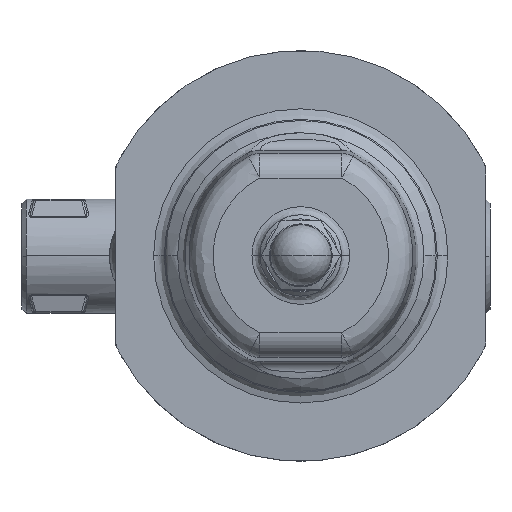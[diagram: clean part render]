
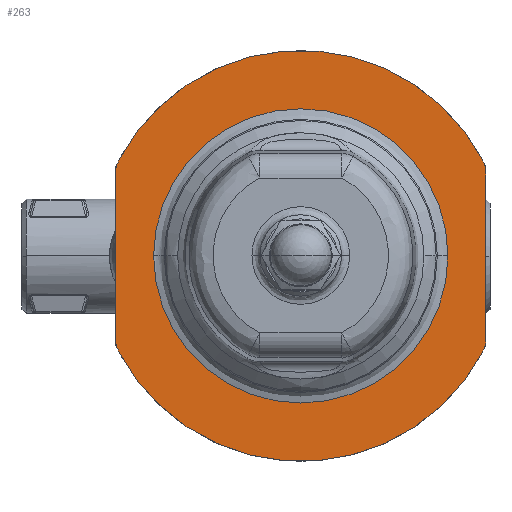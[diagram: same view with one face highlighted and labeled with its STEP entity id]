
A CAD part, top view. The second image highlights one B-rep face of the part: STEP entity #263.
In plain terms, the highlighted planar face has unit normal (0, 0, 1).
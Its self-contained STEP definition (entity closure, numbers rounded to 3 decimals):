
#263=ADVANCED_FACE('',(#1197,#1198),#1196,.F.);
#1196=PLANE('',#7261);
#1197=FACE_OUTER_BOUND('',#7262,.T.);
#1198=FACE_BOUND('',#7263,.T.);
#7258=CARTESIAN_POINT('',(54.6,-60.5,7.));
#7259=DIRECTION('',(0.,0.,-1.));
#7260=DIRECTION('',(-1.,0.,0.));
#7261=AXIS2_PLACEMENT_3D('',#7258,#7259,#7260);
#7262=EDGE_LOOP('',(#15993,#15994,#15995,#15996,#15997,#15998,#15999,#16000));
#7263=EDGE_LOOP('',(#16001,#16002));
#15993=ORIENTED_EDGE('',*,*,#18547,.F.);
#15994=ORIENTED_EDGE('',*,*,#18494,.T.);
#15995=ORIENTED_EDGE('',*,*,#18539,.F.);
#15996=ORIENTED_EDGE('',*,*,#18482,.T.);
#15997=ORIENTED_EDGE('',*,*,#18546,.F.);
#15998=ORIENTED_EDGE('',*,*,#18486,.T.);
#15999=ORIENTED_EDGE('',*,*,#18548,.F.);
#16000=ORIENTED_EDGE('',*,*,#18490,.T.);
#16001=ORIENTED_EDGE('',*,*,#18550,.T.);
#16002=ORIENTED_EDGE('',*,*,#18551,.T.);
#18482=EDGE_CURVE('',#19972,#19965,#19973,.T.);
#18486=EDGE_CURVE('',#20000,#19993,#20001,.T.);
#18490=EDGE_CURVE('',#20028,#20021,#20029,.T.);
#18494=EDGE_CURVE('',#20056,#20049,#20057,.T.);
#18539=EDGE_CURVE('',#19972,#20049,#20351,.T.);
#18546=EDGE_CURVE('',#20000,#19965,#20395,.T.);
#18547=EDGE_CURVE('',#20056,#20021,#20401,.T.);
#18548=EDGE_CURVE('',#20028,#19993,#20407,.T.);
#18550=EDGE_CURVE('',#20419,#20420,#20421,.T.);
#18551=EDGE_CURVE('',#20420,#20419,#20427,.T.);
#19965=VERTEX_POINT('',#28646);
#19972=VERTEX_POINT('',#28650);
#19973=CIRCLE('',#28654,6.5);
#19993=VERTEX_POINT('',#28664);
#20000=VERTEX_POINT('',#28668);
#20001=CIRCLE('',#28672,6.5);
#20021=VERTEX_POINT('',#28682);
#20028=VERTEX_POINT('',#28686);
#20029=CIRCLE('',#28690,6.5);
#20049=VERTEX_POINT('',#28700);
#20056=VERTEX_POINT('',#28704);
#20057=CIRCLE('',#28708,6.5);
#20351=CIRCLE('',#28994,50.5);
#20395=LINE('',#29019,#29020);
#20401=LINE('',#29022,#29023);
#20407=CIRCLE('',#29028,50.5);
#20419=VERTEX_POINT('',#29032);
#20420=VERTEX_POINT('',#29033);
#20421=CIRCLE('',#29037,36.155);
#20427=CIRCLE('',#29041,36.155);
#28646=CARTESIAN_POINT('',(-45.5,20.372,7.));
#28650=CARTESIAN_POINT('',(-44.761,23.381,7.));
#28651=CARTESIAN_POINT('',(-39.,20.372,7.));
#28652=DIRECTION('',(0.,0.,1.));
#28653=DIRECTION('',(1.,0.,0.));
#28654=AXIS2_PLACEMENT_3D('',#28651,#28652,#28653);
#28664=CARTESIAN_POINT('',(-44.761,-23.381,7.));
#28668=CARTESIAN_POINT('',(-45.5,-20.372,7.));
#28669=CARTESIAN_POINT('',(-39.,-20.372,7.));
#28670=DIRECTION('',(0.,0.,1.));
#28671=DIRECTION('',(1.,0.,0.));
#28672=AXIS2_PLACEMENT_3D('',#28669,#28670,#28671);
#28682=CARTESIAN_POINT('',(45.5,-20.372,7.));
#28686=CARTESIAN_POINT('',(44.761,-23.381,7.));
#28687=CARTESIAN_POINT('',(39.,-20.372,7.));
#28688=DIRECTION('',(0.,0.,1.));
#28689=DIRECTION('',(1.,0.,0.));
#28690=AXIS2_PLACEMENT_3D('',#28687,#28688,#28689);
#28700=CARTESIAN_POINT('',(44.761,23.381,7.));
#28704=CARTESIAN_POINT('',(45.5,20.372,7.));
#28705=CARTESIAN_POINT('',(39.,20.372,7.));
#28706=DIRECTION('',(0.,0.,1.));
#28707=DIRECTION('',(1.,0.,0.));
#28708=AXIS2_PLACEMENT_3D('',#28705,#28706,#28707);
#28991=CARTESIAN_POINT('',(0.,0.,7.));
#28992=DIRECTION('',(0.,0.,-1.));
#28993=DIRECTION('',(1.,0.,0.));
#28994=AXIS2_PLACEMENT_3D('',#28991,#28992,#28993);
#29019=CARTESIAN_POINT('',(-45.5,-20.372,7.));
#29020=VECTOR('',#29021,40.743);
#29021=DIRECTION('',(0.,1.,0.));
#29022=CARTESIAN_POINT('',(45.5,20.372,7.));
#29023=VECTOR('',#29024,40.743);
#29024=DIRECTION('',(0.,-1.,0.));
#29025=CARTESIAN_POINT('',(0.,0.,7.));
#29026=DIRECTION('',(0.,0.,-1.));
#29027=DIRECTION('',(1.,0.,0.));
#29028=AXIS2_PLACEMENT_3D('',#29025,#29026,#29027);
#29032=CARTESIAN_POINT('',(-36.155,0.,7.));
#29033=CARTESIAN_POINT('',(36.155,0.,7.));
#29034=CARTESIAN_POINT('',(0.,0.,7.));
#29035=DIRECTION('',(0.,0.,-1.));
#29036=DIRECTION('',(-1.,0.,0.));
#29037=AXIS2_PLACEMENT_3D('',#29034,#29035,#29036);
#29038=CARTESIAN_POINT('',(0.,0.,7.));
#29039=DIRECTION('',(0.,0.,-1.));
#29040=DIRECTION('',(-1.,0.,0.));
#29041=AXIS2_PLACEMENT_3D('',#29038,#29039,#29040);
